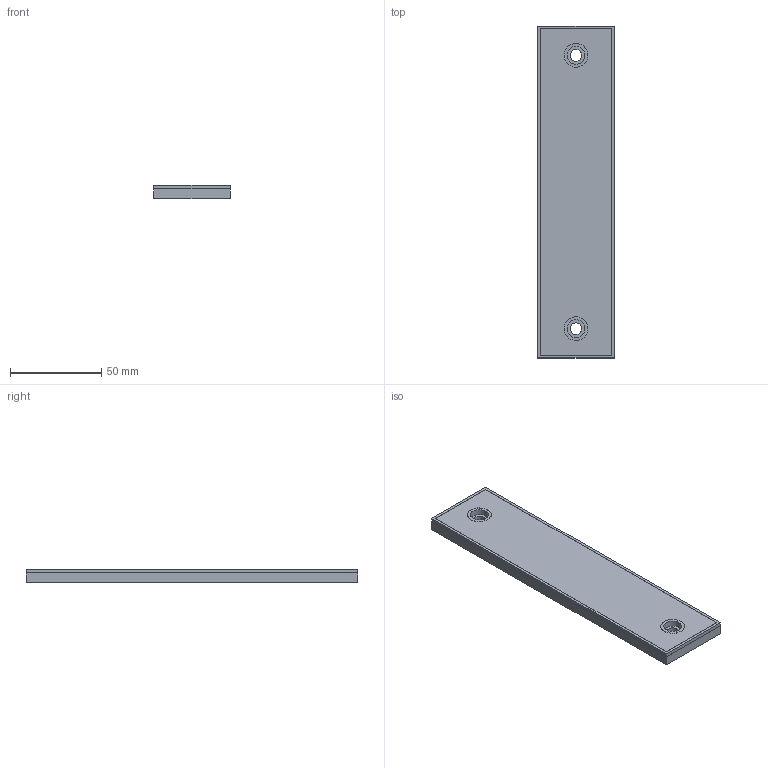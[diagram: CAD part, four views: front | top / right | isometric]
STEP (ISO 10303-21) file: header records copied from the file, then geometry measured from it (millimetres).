
FILE_DESCRIPTION( ('This file contains a STEP AP42 implementation' ,'as created by ZW3D STEP Interface translator.') ,'2;1' );
FILE_NAME( 'E702-21.stp' ,'1811 5.1324 6', (''), ('ZWCAD Software Co.'), 'Version 1.0', 'ZW3D to STEP translator', '' );
FILE_SCHEMA( ('CONFIG_CONTROL_DESIGN') );
Length unit declared in the file: millimetre
Products named in the file (1): 0
Bounding box: 42.1 x 182.2 x 7.4 mm (x, y, z)
Volume: 54006.7 mm3; surface area: 19040 mm2
Topology: 1 solids, 1 shells, 43 faces, 96 edges, 64 vertices
Faces by surface type: bspline 43
Entity records: 1302 total; most frequent: CARTESIAN_POINT 629, ORIENTED_EDGE 192, EDGE_CURVE 96, VERTEX_POINT 64, B_SPLINE_CURVE_WITH_KNOTS 64, EDGE_LOOP 56, FACE_OUTER_BOUND 43, ADVANCED_FACE 43
